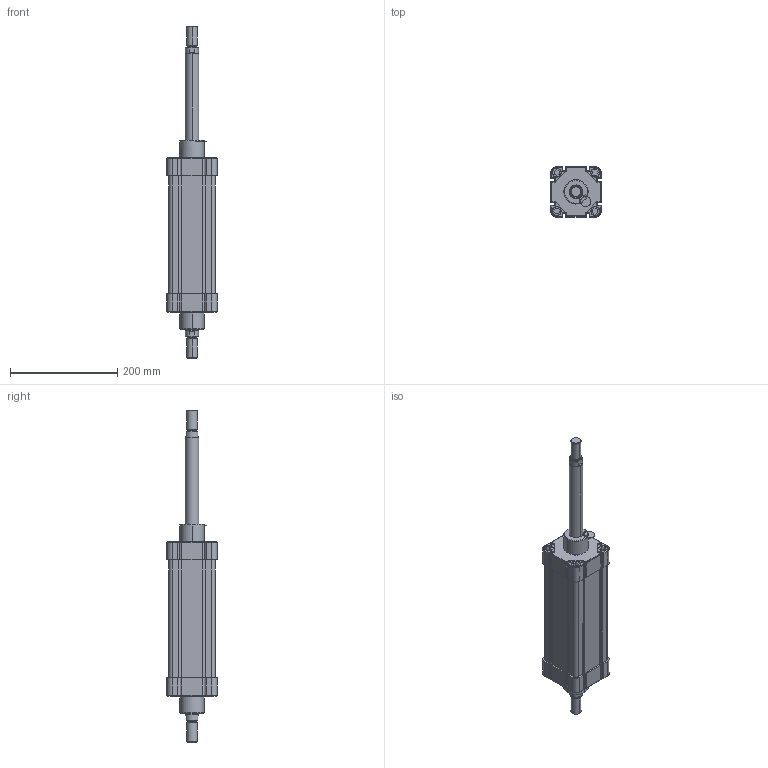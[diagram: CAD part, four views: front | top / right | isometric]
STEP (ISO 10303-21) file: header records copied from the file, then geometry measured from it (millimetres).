
FILE_DESCRIPTION((''),'2;1');
FILE_NAME('N11M40800160.stp','2010-01-06T14:27:58',('B. Petkovic 2010'),('AZ PNEUMATICA S.r.l.'),'Mechanical Desktop 2006','Mechanical Desktop 2006','Via Marco Biagi 6, I-20020 Misinto(MI) Italy, azpneu@tin.it');
FILE_SCHEMA(('CONFIG_CONTROL_DESIGN'));
Length unit declared in the file: millimetre
Products named in the file (2): N11M40630160; CILINDAR
Assembly tree (1 placements, depth 2):
  N11M40630160
    CILINDAR
Bounding box: 94 x 94 x 620 mm (x, y, z)
Volume: 2360427 mm3; surface area: 203334.6 mm2
Topology: 1 solids, 1 shells, 724 faces, 1860 edges, 1184 vertices
Faces by surface type: cylinder 329, plane 301, torus 46, bspline 40, cone 8
Entity records: 24045 total; most frequent: CARTESIAN_POINT 5774, DIRECTION 4056, ORIENTED_EDGE 3720, EDGE_CURVE 1860, AXIS2_PLACEMENT_3D 1522, VERTEX_POINT 1184, VECTOR 1012, LINE 1012
